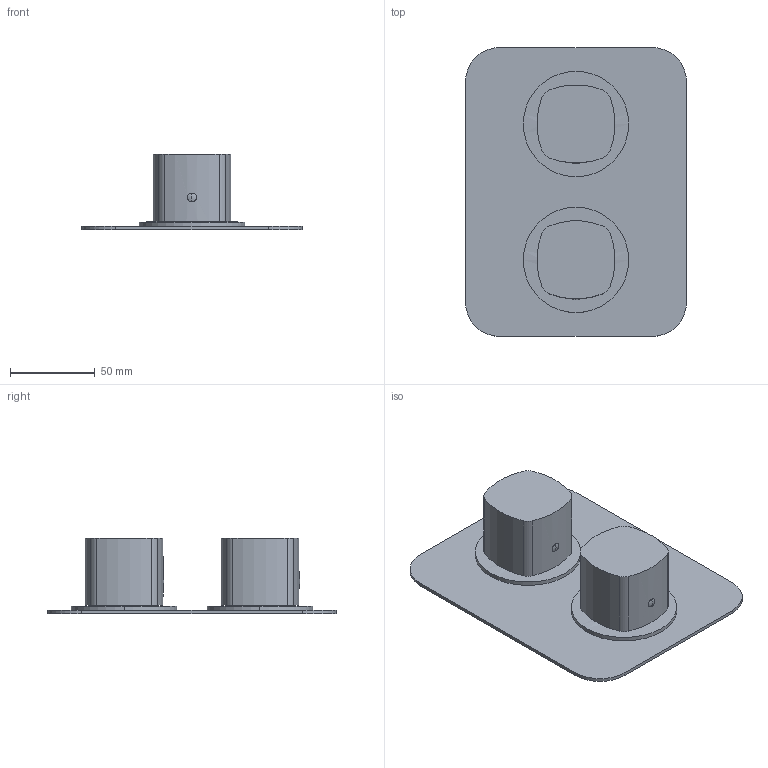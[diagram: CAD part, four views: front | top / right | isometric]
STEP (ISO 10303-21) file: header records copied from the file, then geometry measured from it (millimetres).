
FILE_DESCRIPTION(('FreeCAD Model'),'2;1');
FILE_NAME('Open CASCADE Shape Model','2024-11-19T14:32:29',('Author'),( ''),'Open CASCADE STEP processor 7.6','FreeCAD','Unknown');
FILE_SCHEMA(('AUTOMOTIVE_DESIGN { 1 0 10303 214 1 1 1 1 }'));
Length unit declared in the file: millimetre
Products named in the file (2): TopLevelAssembly; Połączona geometria bryłowa
Assembly tree (1 placements, depth 2):
  TopLevelAssembly
    Połączona geometria bryłowa
Bounding box: 130 x 170 x 44.5 mm (x, y, z)
Volume: 203357 mm3; surface area: 60046.5 mm2
Topology: 1 solids, 1 shells, 44 faces, 104 edges, 66 vertices
Faces by surface type: cylinder 28, plane 12, bspline 4
Entity records: 1424 total; most frequent: CARTESIAN_POINT 352, DIRECTION 240, ORIENTED_EDGE 200, AXIS2_PLACEMENT_3D 102, EDGE_CURVE 100, VERTEX_POINT 66, CIRCLE 60, FACE_BOUND 52
